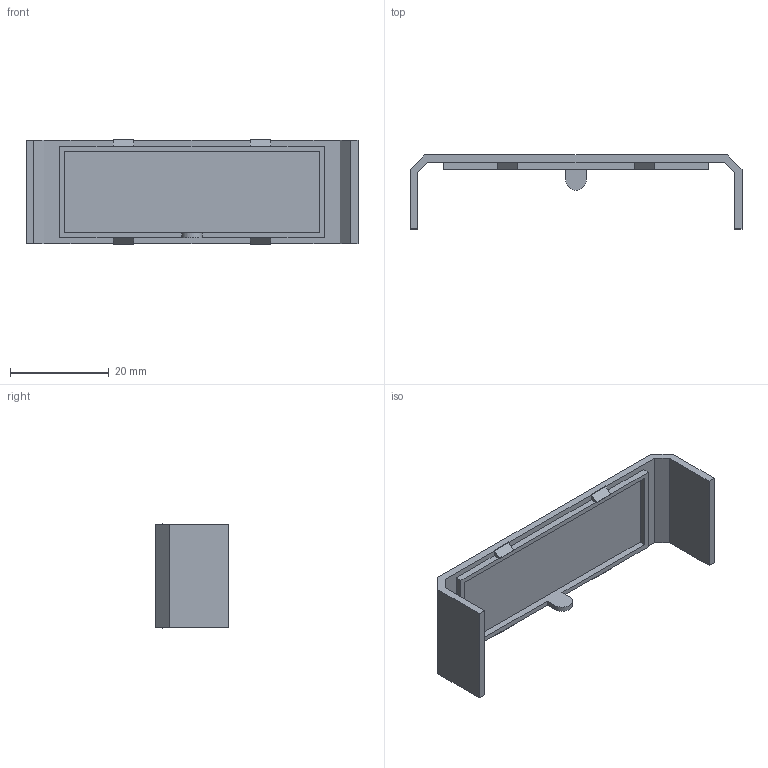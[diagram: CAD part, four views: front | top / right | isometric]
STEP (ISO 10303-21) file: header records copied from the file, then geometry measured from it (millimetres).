
FILE_DESCRIPTION (( 'STEP AP214' ), '1' );
FILE_NAME ('Tapeta PP32.STEP', '2016-10-07T08:11:54', ( 'aaa' ), ( '' ), 'SwSTEP 2.0', 'SolidWorks 2013', '' );
FILE_SCHEMA (( 'AUTOMOTIVE_DESIGN' ));
Length unit declared in the file: millimetre
Products named in the file (1): Tapeta PP32
Bounding box: 67.3 x 15 x 21.26 mm (x, y, z)
Volume: 3090.6 mm3; surface area: 4585.1 mm2
Topology: 1 solids, 1 shells, 54 faces, 140 edges, 88 vertices
Faces by surface type: plane 53, cylinder 1
Entity records: 1632 total; most frequent: CARTESIAN_POINT 283, ORIENTED_EDGE 280, DIRECTION 252, EDGE_CURVE 140, VECTOR 138, LINE 138, VERTEX_POINT 88, AXIS2_PLACEMENT_3D 57
